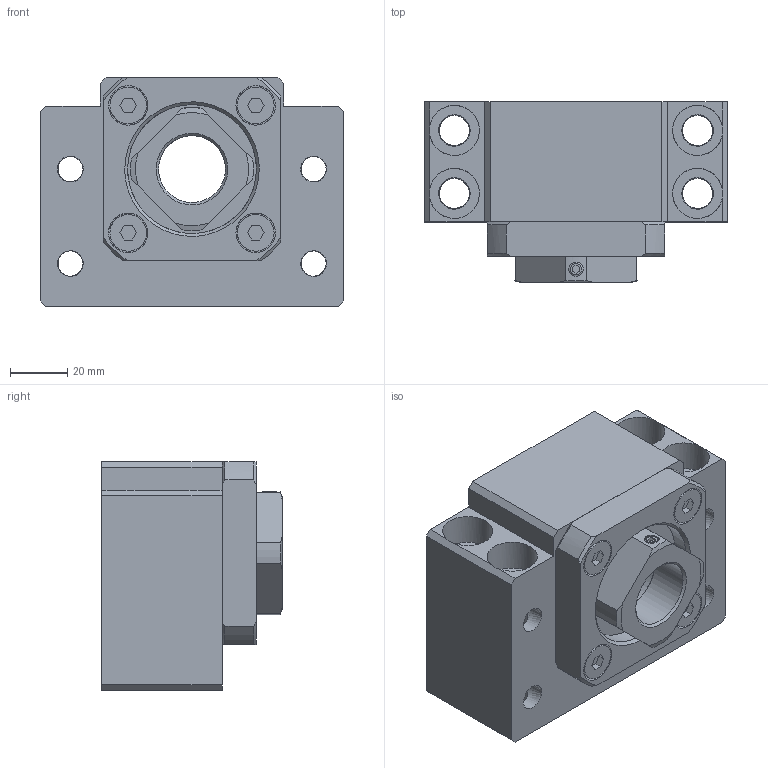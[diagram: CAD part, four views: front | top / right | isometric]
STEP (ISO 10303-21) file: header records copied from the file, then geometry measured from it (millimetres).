
FILE_DESCRIPTION( ('This file contains a STEP AP42 implementation' ,'as created by ZW3D STEP Interface translator.') ,'2;1' );
FILE_NAME( '362740d2-e0d2-41de-80bb-44783ca1af37.stp' ,'18 315.171214', (''), ('ZWCAD Software Co.'), 'Version 1.0', 'ZW3D to STEP translator', '' );
FILE_SCHEMA( ('CONFIG_CONTROL_DESIGN') );
Length unit declared in the file: millimetre
Products named in the file (4): 0; FSFBK-25; _BK 25collar; _BK 25
Assembly tree (2 placements, depth 2):
  0
  FSFBK-25
    _BK 25collar
    _BK 25
Bounding box: 106 x 63 x 80 mm (x, y, z)
Volume: 322330.2 mm3; surface area: 69413.7 mm2
Topology: 2 solids, 3 shells, 161 faces, 422 edges, 282 vertices
Faces by surface type: bspline 161
Entity records: 6505 total; most frequent: CARTESIAN_POINT 3720, ORIENTED_EDGE 844, EDGE_CURVE 422, B_SPLINE_CURVE_WITH_KNOTS 300, VERTEX_POINT 282, EDGE_LOOP 212, FACE_OUTER_BOUND 161, ADVANCED_FACE 161
